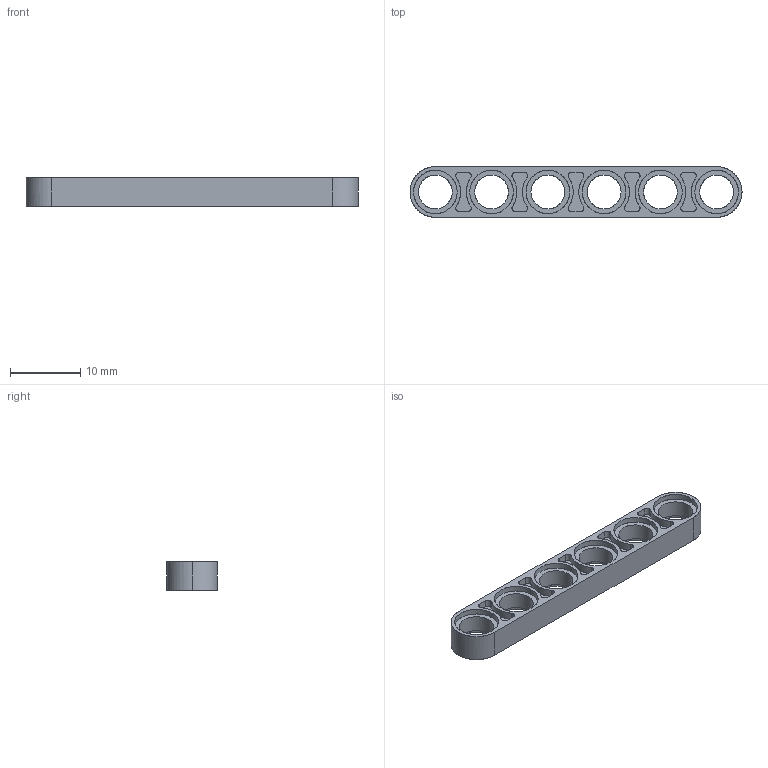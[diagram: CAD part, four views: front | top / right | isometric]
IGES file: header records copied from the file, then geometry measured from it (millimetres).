
Start section: C
Global section: file name: ClGray_4211586_AVV.iges; native system: By Siemens PLM Incorporated; preprocessor: XPlus GENERIC/IGES 26.1.183; author: Author; organization: Title; date: 20250721.235121; units: millimetre
Bounding box: 47.2 x 7.2 x 4 mm (x, y, z)
Surface area: 1424.3 mm2 (no closed solid volume)
Topology: 0 solids, 0 shells, 158 faces, 876 edges, 876 vertices
Faces by surface type: bspline 158
